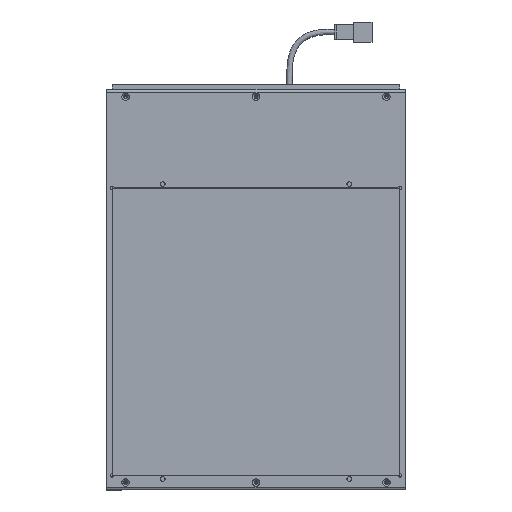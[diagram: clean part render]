
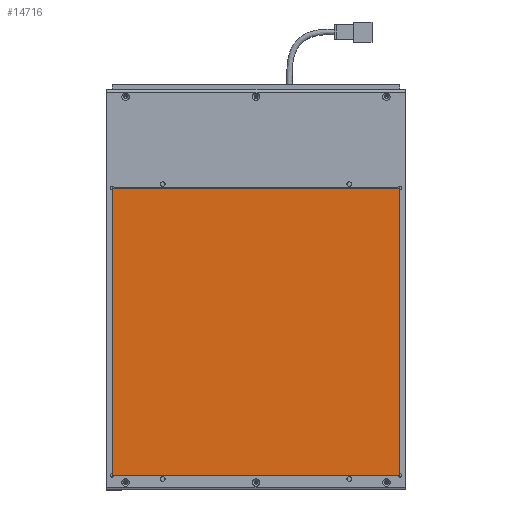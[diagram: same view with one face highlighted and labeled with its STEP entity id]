
A CAD part, front view. The second image highlights one B-rep face of the part: STEP entity #14716.
In plain terms, the highlighted planar face has unit normal (0, -1, 0) as drawn and (0, 0, -1) by its records, which use the part's own axes.
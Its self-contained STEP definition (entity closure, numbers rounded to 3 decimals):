
#1501 = VERTEX_POINT ( 'NONE', #25074 ) ;
#1700 = ORIENTED_EDGE ( 'NONE', *, *, #16412, .F. ) ;
#2106 = CARTESIAN_POINT ( 'NONE',  ( 0., 0., 0. ) ) ;
#2465 = VERTEX_POINT ( 'NONE', #9853 ) ;
#3157 = FACE_OUTER_BOUND ( 'NONE', #5870, .T. ) ;
#3829 = DIRECTION ( 'NONE',  ( 0., 1., 0. ) ) ;
#3891 = CARTESIAN_POINT ( 'NONE',  ( 0., 0., 0. ) ) ;
#4012 = CARTESIAN_POINT ( 'NONE',  ( 0., 154., 0. ) ) ;
#4277 = LINE ( 'NONE', #23392, #19782 ) ;
#5177 = VECTOR ( 'NONE', #12095, 1000. ) ;
#5812 = LINE ( 'NONE', #2106, #5177 ) ;
#5870 = EDGE_LOOP ( 'NONE', ( #12706, #25013, #1700, #17394 ) ) ;
#8424 = VECTOR ( 'NONE', #23630, 1000. ) ;
#8532 = CARTESIAN_POINT ( 'NONE',  ( 0., 154., 0. ) ) ;
#9853 = CARTESIAN_POINT ( 'NONE',  ( 154., 154., 0. ) ) ;
#12095 = DIRECTION ( 'NONE',  ( 1., 0., 0. ) ) ;
#12694 = VECTOR ( 'NONE', #16765, 1000. ) ;
#12706 = ORIENTED_EDGE ( 'NONE', *, *, #23584, .F. ) ;
#12866 = CARTESIAN_POINT ( 'NONE',  ( 0., 154., 0. ) ) ;
#13745 = EDGE_CURVE ( 'NONE', #1501, #20792, #5812, .T. ) ;
#13796 = AXIS2_PLACEMENT_3D ( 'NONE', #4012, #23924, #25671 ) ;
#14716 = ADVANCED_FACE ( 'NONE', ( #3157 ), #15747, .T. ) ;
#15747 = PLANE ( 'NONE',  #13796 ) ;
#16117 = EDGE_CURVE ( 'NONE', #2465, #23148, #21980, .T. ) ;
#16200 = LINE ( 'NONE', #3891, #8424 ) ;
#16412 = EDGE_CURVE ( 'NONE', #20792, #2465, #4277, .T. ) ;
#16765 = DIRECTION ( 'NONE',  ( -1., 0., 0. ) ) ;
#17394 = ORIENTED_EDGE ( 'NONE', *, *, #13745, .F. ) ;
#19782 = VECTOR ( 'NONE', #3829, 1000. ) ;
#20792 = VERTEX_POINT ( 'NONE', #24985 ) ;
#21980 = LINE ( 'NONE', #12866, #12694 ) ;
#23148 = VERTEX_POINT ( 'NONE', #8532 ) ;
#23392 = CARTESIAN_POINT ( 'NONE',  ( 154., 0., 0. ) ) ;
#23584 = EDGE_CURVE ( 'NONE', #23148, #1501, #16200, .T. ) ;
#23630 = DIRECTION ( 'NONE',  ( 0., -1., 0. ) ) ;
#23924 = DIRECTION ( 'NONE',  ( 0., 0., -1. ) ) ;
#24985 = CARTESIAN_POINT ( 'NONE',  ( 154., 0., 0. ) ) ;
#25013 = ORIENTED_EDGE ( 'NONE', *, *, #16117, .F. ) ;
#25074 = CARTESIAN_POINT ( 'NONE',  ( 0., 0., 0. ) ) ;
#25671 = DIRECTION ( 'NONE',  ( -1., 0., 0. ) ) ;
